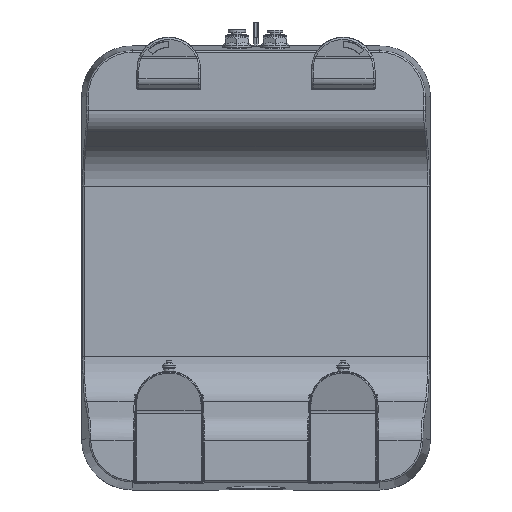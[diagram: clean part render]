
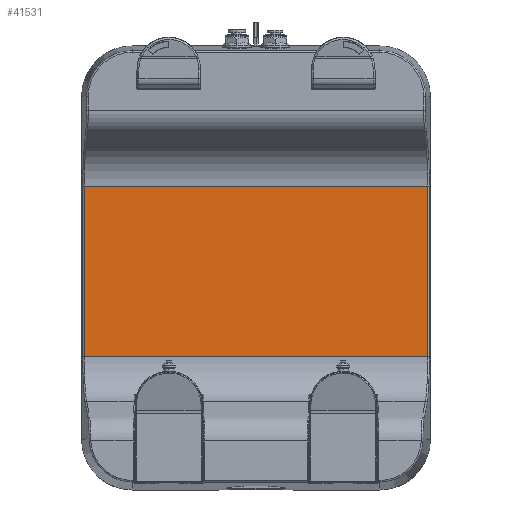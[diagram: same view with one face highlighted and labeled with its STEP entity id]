
A CAD part, top view. The second image highlights one B-rep face of the part: STEP entity #41531.
In plain terms, the highlighted planar face has unit normal (0, 0, 1).
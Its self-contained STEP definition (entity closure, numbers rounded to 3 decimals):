
#7480 = ORIENTED_EDGE ( 'NONE', *, *, #40974, .T. ) ;
#7629 = ORIENTED_EDGE ( 'NONE', *, *, #40505, .T. ) ;
#8314 = ORIENTED_EDGE ( 'NONE', *, *, #42785, .F. ) ;
#9072 = ORIENTED_EDGE ( 'NONE', *, *, #41124, .T. ) ;
#15406 = VECTOR ( 'NONE', #52502, 1000. ) ;
#15442 = LINE ( 'NONE', #52489, #15406 ) ;
#21552 = FACE_OUTER_BOUND ( 'NONE', #69192, .T. ) ;
#22115 = VECTOR ( 'NONE', #36733, 1000. ) ;
#22169 = LINE ( 'NONE', #36732, #22115 ) ;
#22721 = VECTOR ( 'NONE', #28927, 1000. ) ;
#22728 = LINE ( 'NONE', #28925, #22721 ) ;
#23942 = VECTOR ( 'NONE', #66462, 1000. ) ;
#23943 = LINE ( 'NONE', #66457, #23942 ) ;
#25727 = CARTESIAN_POINT ( 'NONE',  ( -108.228, -88.473, 12. ) ) ;
#25735 = CARTESIAN_POINT ( 'NONE',  ( 108.228, -196.095, 12. ) ) ;
#25756 = CARTESIAN_POINT ( 'NONE',  ( 108.228, -88.473, 12. ) ) ;
#25763 = CARTESIAN_POINT ( 'NONE',  ( -108.228, -196.095, 12. ) ) ;
#28925 = CARTESIAN_POINT ( 'NONE',  ( 0., -196.095, 12. ) ) ;
#28927 = DIRECTION ( 'NONE',  ( 1., 0., 0. ) ) ;
#36732 = CARTESIAN_POINT ( 'NONE',  ( -109.161, -88.473, 12. ) ) ;
#36733 = DIRECTION ( 'NONE',  ( -1., 0., 0. ) ) ;
#40505 = EDGE_CURVE ( 'NONE', #53107, #53250, #23943, .T. ) ;
#40974 = EDGE_CURVE ( 'NONE', #53224, #53107, #22169, .T. ) ;
#41124 = EDGE_CURVE ( 'NONE', #53250, #53126, #22728, .T. ) ;
#41531 = ADVANCED_FACE ( 'NONE', ( #21552 ), #58734, .F. ) ;
#42785 = EDGE_CURVE ( 'NONE', #53224, #53126, #15442, .T. ) ;
#45479 = AXIS2_PLACEMENT_3D ( 'NONE', #58732, #58737, #58738 ) ;
#52489 = CARTESIAN_POINT ( 'NONE',  ( 108.228, -72.522, 12. ) ) ;
#52502 = DIRECTION ( 'NONE',  ( 0., -1., 0. ) ) ;
#53107 = VERTEX_POINT ( 'NONE', #25727 ) ;
#53126 = VERTEX_POINT ( 'NONE', #25735 ) ;
#53224 = VERTEX_POINT ( 'NONE', #25756 ) ;
#53250 = VERTEX_POINT ( 'NONE', #25763 ) ;
#58732 = CARTESIAN_POINT ( 'NONE',  ( 387.778, -72.522, 12. ) ) ;
#58734 = PLANE ( 'NONE',  #45479 ) ;
#58737 = DIRECTION ( 'NONE',  ( 0., 0., -1. ) ) ;
#58738 = DIRECTION ( 'NONE',  ( 0., 1., 0. ) ) ;
#66457 = CARTESIAN_POINT ( 'NONE',  ( -108.228, -72.522, 12. ) ) ;
#66462 = DIRECTION ( 'NONE',  ( 0., -1., 0. ) ) ;
#69192 = EDGE_LOOP ( 'NONE', ( #7480, #7629, #9072, #8314 ) ) ;
